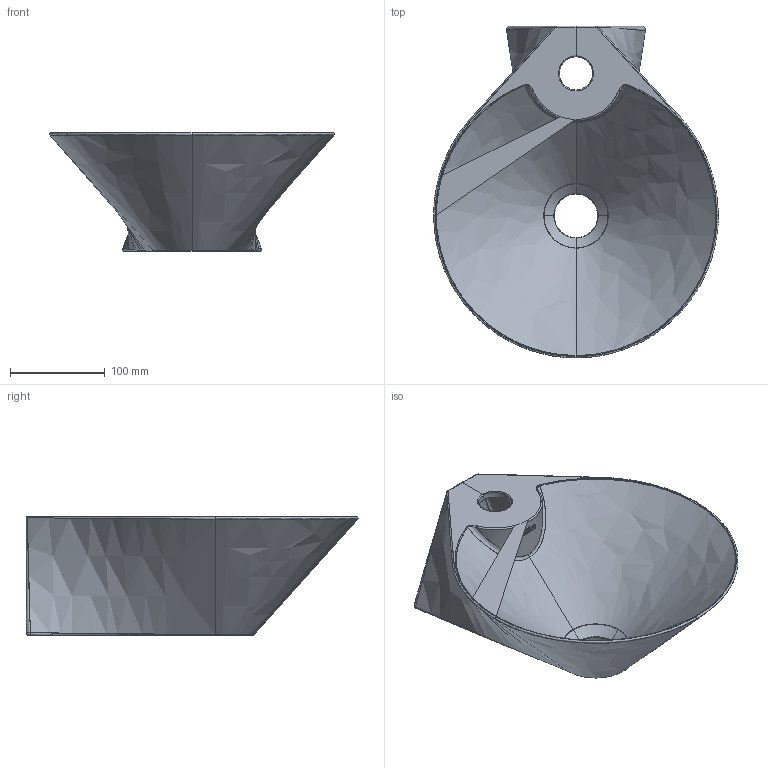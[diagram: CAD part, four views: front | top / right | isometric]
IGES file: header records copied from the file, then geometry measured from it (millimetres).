
Global section: file name: C:\Users\hp\Desktop\4935_Navia\4935_NAVIA.igs; native system: Rhinoceros ( Mar  7 2025 ); preprocessor: Trout Lake IGES 012 Mar  7 2025; date: 250401.101742; units: millimetre
Bounding box: 300.05 x 350.02 x 125 mm (x, y, z)
Surface area: 295792 mm2 (no closed solid volume)
Topology: 0 solids, 0 shells, 201 faces, 1853 edges, 1850 vertices
Faces by surface type: bspline 201
